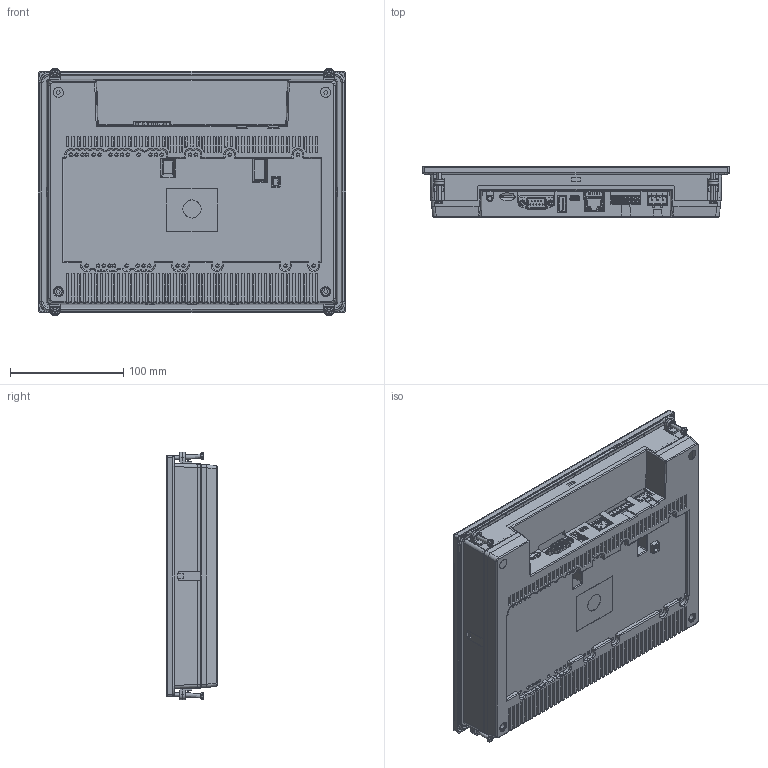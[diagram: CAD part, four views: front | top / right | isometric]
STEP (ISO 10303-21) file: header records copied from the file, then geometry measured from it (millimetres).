
FILE_DESCRIPTION(/* description */ (''),/* implementation_level */ '2;1');
FILE_NAME(/* name */ 'P5101',/* time_stamp */ '2021-06-10T15:54:00+08:00',/* author */ (''),/* organization */ (''),/* preprocessor_version */ 'ST-DEVELOPER v16.5',/* originating_system */ '',/* authorisation */ '');
FILE_SCHEMA (('CONFIG_CONTROL_DESIGN'));
Products named in the file (1): Document
Bounding box: 271.2 x 44.9 x 218.6 mm (x, y, z)
Surface area: 424757.5 mm2 (no closed solid volume)
Topology: 0 solids, 6254 shells, 6254 faces, 36804 edges, 41346 vertices
Faces by surface type: plane 3763, cylinder 1599, bspline 892
Entity records: 333531 total; most frequent: CARTESIAN_POINT 160789, ORIENTED_EDGE 31884, EDGE_CURVE 31884, VERTEX_POINT 31884, B_SPLINE_CURVE_WITH_KNOTS 28892, EDGE_LOOP 6578, SHELL_BASED_SURFACE_MODEL 6254, OPEN_SHELL 6254
